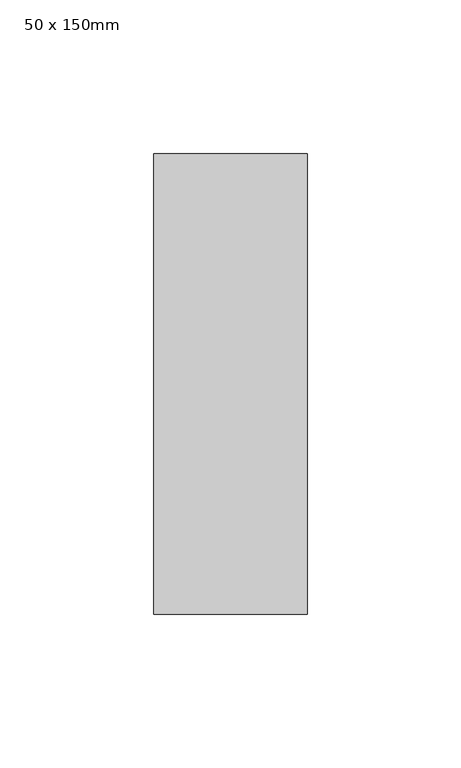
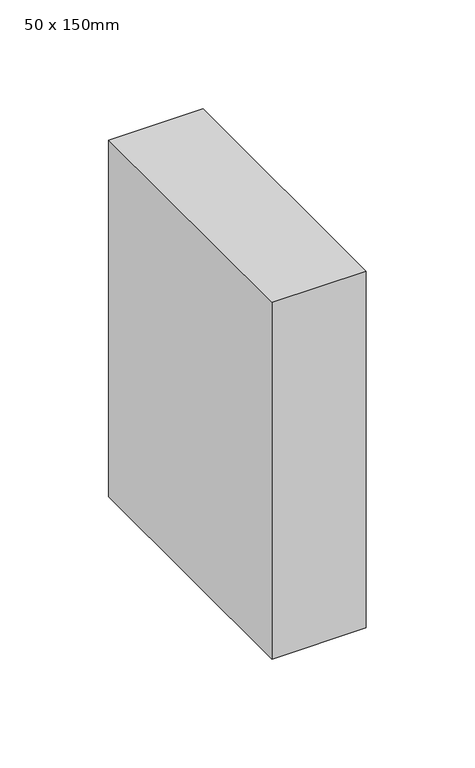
"""IFC4 building model written with IfcOpenShell, lengths in millimetres: member geometry, Прямоугольный импост : 50 x 150mm."""

import ifcopenshell
import ifcopenshell.guid

model = None  # the IFC model being written
_history = None  # IfcOwnerHistory: only IFC2X3 demands one
_inside = {}  # id of a spatial element -> (the spatial element, [elements in it])
_under = {}  # id of a project, library or spatial element -> (it, [spatial elements below it])
_declared = {}  # id of a project -> (the project, [libraries it declares])
_typed = {}  # id of a type object -> (the type object, [elements of that type])
_made_of = {}  # id of a material, layer set ... -> (it, [elements and type objects made of it])


def new_model(schema):
    """Start an empty IFC model of exactly this schema.

    Asked for "IFC4X3", IfcOpenShell would pick the latest addendum, in which some entities
    have other attributes; the version numbers below select the first issue.
    IFC2X3 requires an IfcOwnerHistory on every rooted entity: one is made here for all.
    """
    global model, _history
    if schema == "IFC4X3":
        model = ifcopenshell.file(schema_version=(4, 3, 0, 0))
    else:
        model = ifcopenshell.file(schema=schema)
    _inside.clear()
    _under.clear()
    _declared.clear()
    _typed.clear()
    _made_of.clear()
    _history = None
    if model.schema == "IFC2X3":
        org = make("IfcOrganization", Name="unknown")
        user = make(
            "IfcPersonAndOrganization",
            ThePerson=make("IfcPerson", FamilyName="unknown"),
            TheOrganization=org,
        )
        app = make(
            "IfcApplication",
            ApplicationDeveloper=org,
            Version="unknown",
            ApplicationFullName="unknown",
            ApplicationIdentifier="unknown",
        )
        _history = make(
            "IfcOwnerHistory",
            OwningUser=user,
            OwningApplication=app,
            ChangeAction="ADDED",
            CreationDate=0,
        )
    return model


def make(cls, **values):
    """One entity of the class cls with the attributes given. An attribute that is None is left unset."""
    return model.create_entity(
        cls, **{name: value for name, value in values.items() if value is not None}
    )


def rooted(cls, **values):
    """An entity with a GlobalId (a new one), such as an element, a storey or a relation."""
    return make(cls, GlobalId=ifcopenshell.guid.new(), OwnerHistory=_history, **values)


def si_unit(unit_type, name, prefix=None):
    """IfcSIUnit, for example si_unit("LENGTHUNIT", "METRE", prefix="MILLI")."""
    return make("IfcSIUnit", UnitType=unit_type, Prefix=prefix, Name=name)


def assignment(units):
    """IfcUnitAssignment: the units of a project."""
    return None if units is None else make("IfcUnitAssignment", Units=units)


def point(xyz):
    """IfcCartesianPoint."""
    return None if xyz is None else make("IfcCartesianPoint", Coordinates=xyz)


def direction(xyz):
    """IfcDirection."""
    return None if xyz is None else make("IfcDirection", DirectionRatios=xyz)


def frame(location, z_axis=None, x_axis=None):
    """IfcAxis2Placement3D, a coordinate frame: its origin and axes. An axis left out is left unset."""
    return make(
        "IfcAxis2Placement3D",
        Location=point(location),
        Axis=direction(z_axis),
        RefDirection=direction(x_axis),
    )


def origin():
    """The frame at (0, 0, 0) with its axes left unset."""
    return frame((0.0, 0.0, 0.0))


def place(relative_to, where):
    """IfcLocalPlacement: puts the frame where relative to a parent placement (None: the world)."""
    return make(
        "IfcLocalPlacement", PlacementRelTo=relative_to, RelativePlacement=where
    )


def context(
    kind, dimensions, precision=None, world=None, true_north=None, identifier=None
):
    """IfcGeometricRepresentationContext, for example the 3D "Model" context."""
    return make(
        "IfcGeometricRepresentationContext",
        ContextIdentifier=identifier,
        ContextType=kind,
        CoordinateSpaceDimension=dimensions,
        Precision=precision,
        WorldCoordinateSystem=world,
        TrueNorth=true_north,
    )


def project(units=None, contexts=None):
    """IfcProject with its units and contexts."""
    return rooted(
        "IfcProject",
        Name="project",
        RepresentationContexts=contexts,
        UnitsInContext=assignment(units),
    )


def spatial(cls, under=None, at=None, **own):
    """A site, building, storey or space (cls), placed at a placement, below another one or the project."""
    s = rooted(cls, ObjectPlacement=at, **own)
    if under is not None:
        _under.setdefault(under.id(), (under, []))[1].append(s)
    return s


def polyline(points):
    """IfcPolyline through the points."""
    return make("IfcPolyline", Points=[point(p) for p in points])


def outline(outer, holes=None, kind="AREA"):
    """IfcArbitraryClosedProfileDef: a profile drawn as a closed curve; with holes, ...WithVoids."""
    if holes is None:
        return make("IfcArbitraryClosedProfileDef", ProfileType=kind, OuterCurve=outer)
    return make(
        "IfcArbitraryProfileDefWithVoids",
        ProfileType=kind,
        OuterCurve=outer,
        InnerCurves=holes,
    )


def extrude(swept, where, along, depth):
    """IfcExtrudedAreaSolid: the profile swept, set in the frame where, extruded along a direction by depth."""
    return make(
        "IfcExtrudedAreaSolid",
        SweptArea=swept,
        Position=where,
        ExtrudedDirection=direction(along),
        Depth=depth,
    )


def shape(context_of_items, identifier, shape_type, items):
    """IfcShapeRepresentation: the items that make up one representation, for example the "Body"."""
    return make(
        "IfcShapeRepresentation",
        ContextOfItems=context_of_items,
        RepresentationIdentifier=identifier,
        RepresentationType=shape_type,
        Items=items,
    )


def source(mapping_origin, context_of_items, identifier, shape_type, items):
    """IfcRepresentationMap: a shape defined once, which mapped items show again and again."""
    return make(
        "IfcRepresentationMap",
        MappingOrigin=mapping_origin,
        MappedRepresentation=shape(context_of_items, identifier, shape_type, items),
    )


def transform(
    local_origin,
    x_axis=None,
    y_axis=None,
    z_axis=None,
    scale=None,
    scale2=None,
    scale3=None,
    uniform=True,
):
    """IfcCartesianTransformationOperator3D, or its non-uniform kind. x_axis, y_axis, z_axis: its Axis1, 2, 3."""
    if uniform:
        return make(
            "IfcCartesianTransformationOperator3D",
            Axis1=direction(x_axis),
            Axis2=direction(y_axis),
            LocalOrigin=point(local_origin),
            Scale=scale,
            Axis3=direction(z_axis),
        )
    return make(
        "IfcCartesianTransformationOperator3DnonUniform",
        Axis1=direction(x_axis),
        Axis2=direction(y_axis),
        LocalOrigin=point(local_origin),
        Scale=scale,
        Axis3=direction(z_axis),
        Scale2=scale2,
        Scale3=scale3,
    )


def mapped(mapping_source, mapping_target):
    """IfcMappedItem: shows the shape of a source again, moved by a transform."""
    return make(
        "IfcMappedItem", MappingSource=mapping_source, MappingTarget=mapping_target
    )


def made_of(thing, what):
    """Note that an element or type object is made of a material, layer set ...; save() writes the relation."""
    if what is not None:
        _made_of.setdefault(what.id(), (what, []))[1].append(thing)
    return thing


def element(
    cls,
    number,
    at=None,
    inside=None,
    cuts=None,
    type_object=None,
    material=None,
    context=None,
    identifier="Body",
    shape_type=None,
    held_by="IfcProductDefinitionShape",
    body=None,
    shapes=None,
    **own,
):
    """One element of the class cls, such as IfcWall. Its Tag is "e" and its number.

    at: its placement. inside: the storey or other place that contains it. cuts: it is an
    opening in that element (IfcRelVoidsElement). A single representation is given by context,
    identifier, shape_type and body (its items); several are given by shapes. held_by: the class
    of the entity that holds the representations. save() writes the other relations.
    """
    e = rooted(cls, Tag="e%d" % number, ObjectPlacement=at, **own)
    if body is not None:
        shapes = [shape(context, identifier, shape_type, body)]
    if shapes is not None:
        e.Representation = make(held_by, Representations=shapes)
    if inside is not None:
        _inside.setdefault(inside.id(), (inside, []))[1].append(e)
    if cuts is not None:
        rooted(
            "IfcRelVoidsElement", RelatingBuildingElement=cuts, RelatedOpeningElement=e
        )
    if type_object is not None:
        _typed.setdefault(type_object.id(), (type_object, []))[1].append(e)
    return made_of(e, material)


def aggregate(whole, parts):
    """IfcRelAggregates: a whole, such as a stair, and the parts it consists of."""
    return rooted("IfcRelAggregates", RelatingObject=whole, RelatedObjects=parts)


def save(model, path):
    """Write the relations noted so far, then the file.

    IfcRelAggregates (storeys below a building ...), IfcRelContainedInSpatialStructure (elements
    in a storey), IfcRelDefinesByType, IfcRelAssociatesMaterial and IfcRelDeclares: one each for
    every whole, place, type object, material and project.
    """
    for whole, parts in _under.values():
        aggregate(whole, parts)
    for where, things in _inside.values():
        rooted(
            "IfcRelContainedInSpatialStructure",
            RelatedElements=things,
            RelatingStructure=where,
        )
    for kind, things in _typed.values():
        rooted("IfcRelDefinesByType", RelatedObjects=things, RelatingType=kind)
    for what, things in _made_of.values():
        rooted("IfcRelAssociatesMaterial", RelatedObjects=things, RelatingMaterial=what)
    for by, libraries in _declared.values():
        rooted("IfcRelDeclares", RelatingContext=by, RelatedDefinitions=libraries)
    model.write(path)


def member_50_x_150mm_03f9fa20(model_context):
    return source(origin(), model_context, "Body", "SweptSolid", [
        extrude(outline(polyline([(0.0, 75.0), (0.0, -75.0), (-50.0, -75.0), (-50.0, 75.0), (0.0, 75.0)])), frame((0.0, 0.0, -200.0), z_axis=(0.0, 0.0, 1.0), x_axis=(1.0, 0.0, 0.0)), (0.0, 0.0, 1.0), 200.0),
    ])


if __name__ == "__main__":
    model = new_model("IFC4")
    model_context = context("Model", 3, world=origin())
    ifc_project = project(units=[si_unit("LENGTHUNIT", "METRE", prefix="MILLI")], contexts=[model_context])
    site = spatial("IfcSite", under=ifc_project)
    building = spatial("IfcBuilding", under=site)
    placement = place(None, origin())
    member_50_x_150mm_shape = member_50_x_150mm_03f9fa20(model_context)
    element("IfcMember", 1, ObjectType="Прямоугольный импост : 50 x 150mm", at=placement, inside=building, context=model_context, shape_type="MappedRepresentation", body=[
        mapped(member_50_x_150mm_shape, transform((0.0, 0.0, 0.0), x_axis=(1.0, 0.0, 0.0), y_axis=(0.0, 1.0, 0.0), z_axis=(0.0, 0.0, 1.0))),
    ])
    save(model, "model.ifc")
